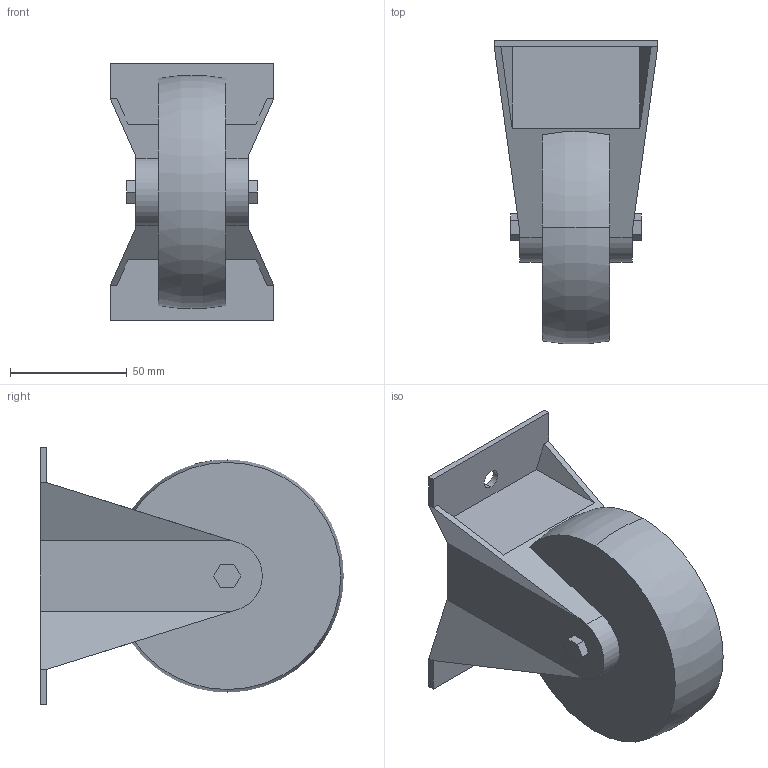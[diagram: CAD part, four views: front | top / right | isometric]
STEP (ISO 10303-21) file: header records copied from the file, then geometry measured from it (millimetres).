
FILE_DESCRIPTION (( 'STEP AP214' ), '1' );
FILE_NAME ('SK-100GNU_SK-100NB.step', '2024-02-19T02:00:45', ( 'catia' ), ( 'HP Inc.' ), 'SwSTEP 2.0', 'SolidWorks 2021', '' );
FILE_SCHEMA (( 'AUTOMOTIVE_DESIGN' ));
Length unit declared in the file: millimetre
Products named in the file (1): SK-100GNU_SK-100NB
Bounding box: 70 x 129.84 x 110 mm (x, y, z)
Volume: 384883.8 mm3; surface area: 46406.6 mm2
Topology: 1 solids, 1 shells, 48 faces, 128 edges, 84 vertices
Faces by surface type: plane 39, cylinder 6, torus 3
Entity records: 1540 total; most frequent: CARTESIAN_POINT 283, ORIENTED_EDGE 256, DIRECTION 244, EDGE_CURVE 128, LINE 106, VECTOR 106, VERTEX_POINT 84, AXIS2_PLACEMENT_3D 69
